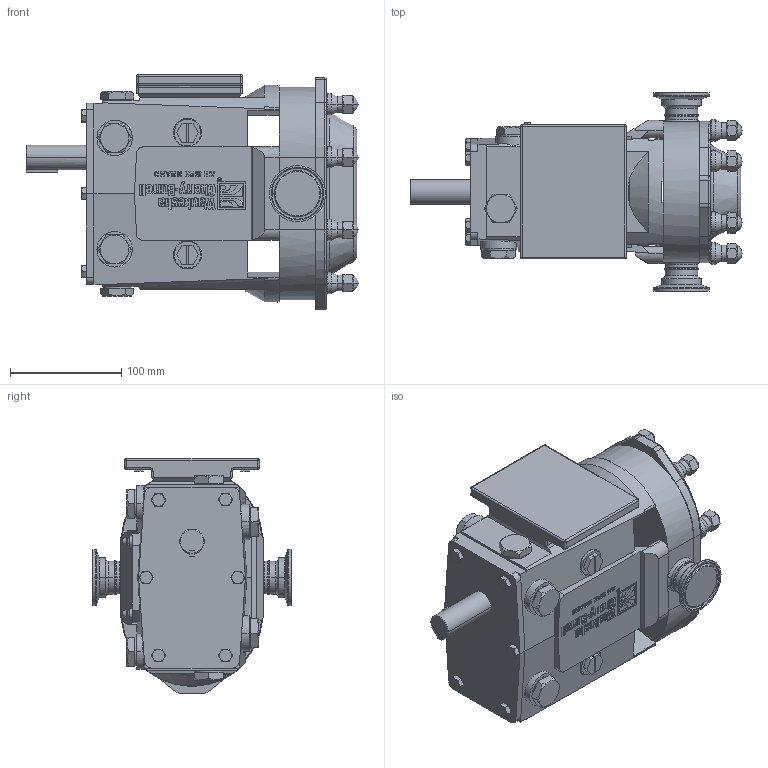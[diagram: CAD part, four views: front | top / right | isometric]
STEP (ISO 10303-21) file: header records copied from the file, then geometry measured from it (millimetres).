
FILE_DESCRIPTION (( 'STEP AP203' ), '1' );
FILE_NAME ('Waukesha 006U2-Lower Shaft.STEP', '2019-01-22T19:48:55', ( '' ), ( '' ), 'SwSTEP 2.0', 'SolidWorks 2014', '' );
FILE_SCHEMA (( 'CONFIG_CONTROL_DESIGN' ));
Length unit declared in the file: millimetre
Products named in the file (1): Waukesha 006U2-Lower Shaft
Bounding box: 298.41 x 178.21 x 211.02 mm (x, y, z)
Volume: 3980562 mm3; surface area: 252870.2 mm2
Topology: 1 solids, 1 shells, 1156 faces, 2930 edges, 1856 vertices
Faces by surface type: plane 690, cylinder 158, cone 113, bspline 111, torus 60, sphere 24
Entity records: 37735 total; most frequent: CARTESIAN_POINT 10786, ORIENTED_EDGE 5844, DIRECTION 5088, EDGE_CURVE 2922, VECTOR 1876, LINE 1876, VERTEX_POINT 1856, AXIS2_PLACEMENT_3D 1606
